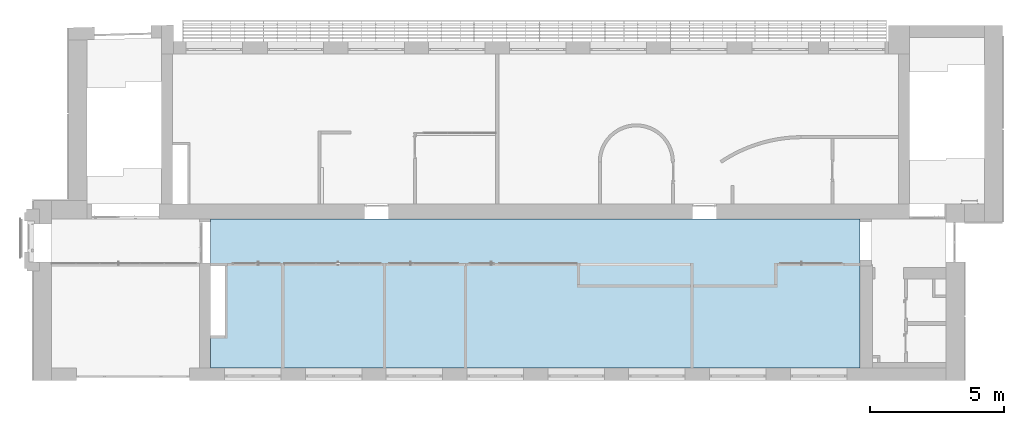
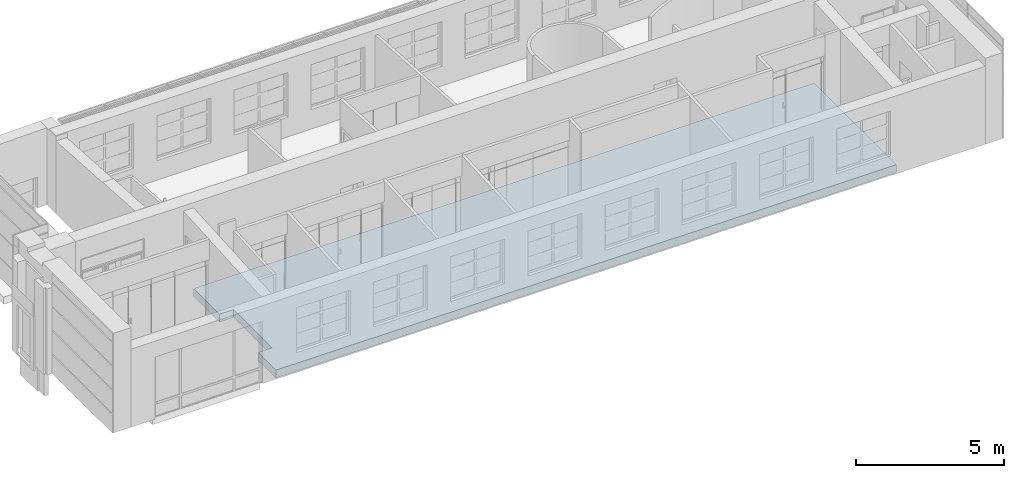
# One storey, part 14 of 46: 1 slab.
"""IFC2X3 building model written with IfcOpenShell, lengths in millimetres."""

from ifc_helpers import new_model, entity, si_unit, converted_unit, derived_unit, direction, frame, origin, place, context, subcontext, project, spatial, polyline, outline, extrude, material, layer, layer_set, layer_usage, element, save


model = new_model("IFC2X3")

# Units and contexts
model_context = context("Model", 3, precision=0.01, world=origin(), true_north=direction((6.12303176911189e-17, 1.0)))
body_context = subcontext(model_context, "Body", "Model", "MODEL_VIEW")
ifc_project = project(units=[si_unit("LENGTHUNIT", "METRE", prefix="MILLI"), si_unit("AREAUNIT", "SQUARE_METRE"), si_unit("VOLUMEUNIT", "CUBIC_METRE"), converted_unit("PLANEANGLEUNIT", "DEGREE", entity("IfcRatioMeasure", 0.0174532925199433), si_unit("PLANEANGLEUNIT", "RADIAN"), dimensions=[0, 0, 0, 0, 0, 0, 0]), si_unit("MASSUNIT", "GRAM", prefix="KILO"), derived_unit("MASSDENSITYUNIT", [(si_unit("MASSUNIT", "GRAM", prefix="KILO"), 1), (si_unit("LENGTHUNIT", "METRE"), -3)]), si_unit("TIMEUNIT", "SECOND"), si_unit("FREQUENCYUNIT", "HERTZ"), si_unit("THERMODYNAMICTEMPERATUREUNIT", "DEGREE_CELSIUS"), derived_unit("THERMALTRANSMITTANCEUNIT", [(si_unit("MASSUNIT", "GRAM", prefix="KILO"), 1), (si_unit("THERMODYNAMICTEMPERATUREUNIT", "KELVIN"), -1), (si_unit("TIMEUNIT", "SECOND"), -3)]), derived_unit("VOLUMETRICFLOWRATEUNIT", [(si_unit("LENGTHUNIT", "METRE"), 3), (si_unit("TIMEUNIT", "SECOND"), -1)]), si_unit("ELECTRICCURRENTUNIT", "AMPERE"), si_unit("ELECTRICVOLTAGEUNIT", "VOLT"), si_unit("POWERUNIT", "WATT"), si_unit("FORCEUNIT", "NEWTON", prefix="KILO"), si_unit("ILLUMINANCEUNIT", "LUX"), si_unit("LUMINOUSFLUXUNIT", "LUMEN"), si_unit("LUMINOUSINTENSITYUNIT", "CANDELA"), derived_unit("USERDEFINED", [(si_unit("MASSUNIT", "GRAM", prefix="KILO"), -1), (si_unit("LENGTHUNIT", "METRE"), -2), (si_unit("TIMEUNIT", "SECOND"), 3), (si_unit("LUMINOUSFLUXUNIT", "LUMEN"), 1)]), derived_unit("LINEARVELOCITYUNIT", [(si_unit("LENGTHUNIT", "METRE"), 1), (si_unit("TIMEUNIT", "SECOND"), -1)]), si_unit("PRESSUREUNIT", "PASCAL"), derived_unit("USERDEFINED", [(si_unit("LENGTHUNIT", "METRE"), -2), (si_unit("MASSUNIT", "GRAM", prefix="KILO"), 1), (si_unit("TIMEUNIT", "SECOND"), -2)])], contexts=[model_context])

# Site, building, storey
site_placement = place(None, frame((-151.875543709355, 2715.0, 0.0)))
site = spatial("IfcSite", under=ifc_project, at=site_placement, Name="Surface", CompositionType="ELEMENT")
building_placement = place(site_placement, origin())
building = spatial("IfcBuilding", under=site, at=building_placement, CompositionType="ELEMENT")
storey_placement = place(building_placement, frame((0.0, 0.0, 10060.0)))
storey = spatial("IfcBuildingStorey", under=building, at=storey_placement, Name="4 korrus", CompositionType="ELEMENT", Elevation=10060.0000000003)

# Slab
ifc_material_1 = material(Name="Viimistlus")
ifc_layer_1 = layer(ifc_material_1, 20.0)
ifc_material_2 = material(Name="Betoon")
ifc_layer_2 = layer(ifc_material_2, 30.0)
ifc_material_3 = material(Name="Helisummutusvill")
ifc_layer_3 = layer(ifc_material_3, 30.0)
ifc_material_4 = material(Name="__Kergkruus")
ifc_layer_4 = layer(ifc_material_4, 30.0)
ifc_material_5 = material(Name="Betoon paneel")
ifc_layer_5 = layer(ifc_material_5, 220.0)
ifc_layer_set = layer_set([ifc_layer_1, ifc_layer_2, ifc_layer_3, ifc_layer_4, ifc_layer_5], Name="Floor:VL-1_vahelagi olemasolevas hoones")
ifc_layer_usage = layer_usage(ifc_layer_set, "AXIS3", "POSITIVE", 0.0)
slab_placement = place(storey_placement, origin())
element("IfcSlab", 1, at=slab_placement, inside=storey, material=ifc_layer_usage, Name="Floor:VL-1_vahelagi olemasolevas hoones", ObjectType="Floor:VL-1_vahelagi olemasolevas hoones", PredefinedType="FLOOR", context=body_context, shape_type="SweptSolid", body=[
    extrude(outline(polyline([(1164.86216371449, -6182.88090750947), (2910.06275657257, -6182.88090750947), (2910.06275657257, 17998.6427224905), (-2640.03261085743, 17998.6427224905), (-2640.03261085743, -6182.88090750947), (-1434.89230942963, -6182.88090750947), (-1434.89230942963, -5632.8809074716), (1164.86216371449, -5632.8809074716), (1164.86216371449, -6182.88090750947)])), frame((12545.3744369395, 3099.93724342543, 0.0), z_axis=(0.0, 0.0, -1.0), x_axis=(0.0, 1.0, 0.0)), (0.0, 0.0, 1.0), 330.0),
])

save(model, "model.ifc")
